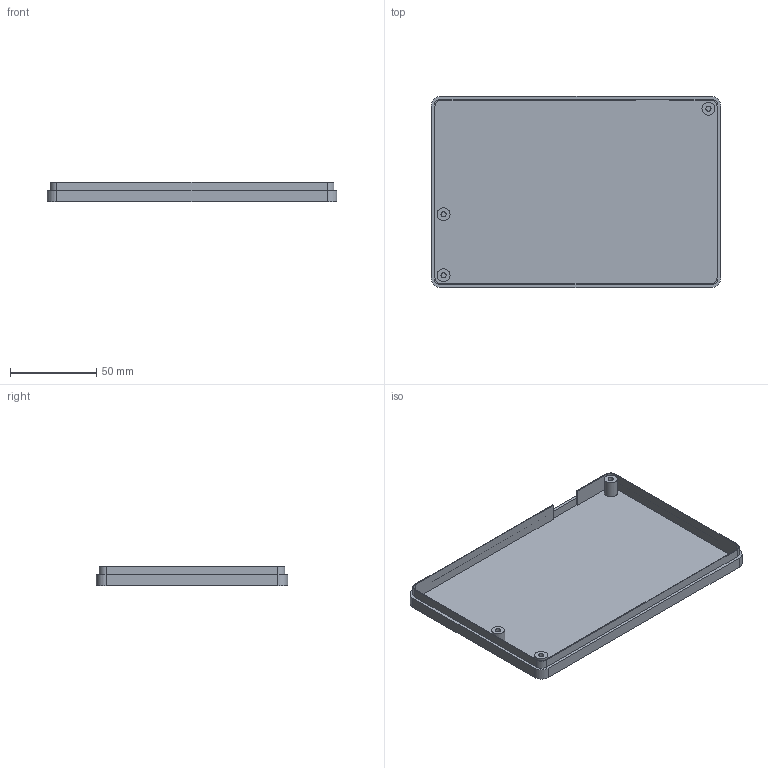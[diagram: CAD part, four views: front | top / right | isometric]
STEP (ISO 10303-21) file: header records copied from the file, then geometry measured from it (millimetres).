
FILE_DESCRIPTION(/* description */ ('STEP AP242 Edition 2','CAx-IF Rec.Pracs.---Representation and Presentation of Product Manufacturing Information (PMI)---4.0---2014-10-13','CAx-IF Rec.Pracs.---3D Tessellated Geometry---0.4---2014-09-14','2;1','CAx-IF Rec.Pracs.---User Defined Attributes---1.5---2016-08-15'),/* implementation_level */ '2;1');
FILE_NAME(/* name */ 'Assembly 1 - Part 1 (3)',/* time_stamp */ '2026-07-23T10:03:21Z',/* author */ (''),/* organization */ (''),/* preprocessor_version */ 'ST-DEVELOPER v20',/* originating_system */ 'ONSHAPE BY PTC INC, 1.218',/* authorisation */ ' ');
FILE_SCHEMA (('AP242_MANAGED_MODEL_BASED_3D_ENGINEERING_MIM_LF { 1 0 10303 442 3 1 4 }'));
Length unit declared in the file: metre
Products named in the file (1): Part 1
Bounding box: 167.92 x 110.92 x 11.5 mm (x, y, z)
Volume: 36230.4 mm3; surface area: 49583.1 mm2
Topology: 1 solids, 1 shells, 45 faces, 106 edges, 70 vertices
Faces by surface type: plane 27, cylinder 18
Full cylindrical faces by diameter (mm): 3 x3, 7.5 x3
Entity records: 1292 total; most frequent: DIRECTION 228, CARTESIAN_POINT 216, ORIENTED_EDGE 200, EDGE_CURVE 100, AXIS2_PLACEMENT_3D 82, VERTEX_POINT 70, LINE 64, VECTOR 64
